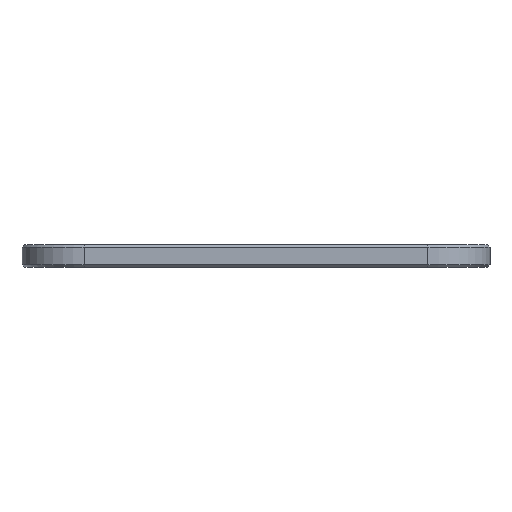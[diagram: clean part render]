
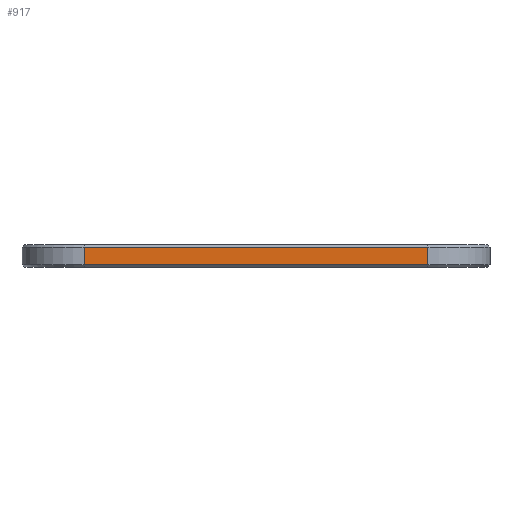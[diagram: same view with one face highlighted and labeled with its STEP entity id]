
A CAD part, front view. The second image highlights one B-rep face of the part: STEP entity #917.
In plain terms, the highlighted planar face has unit normal (0, -1, 0).
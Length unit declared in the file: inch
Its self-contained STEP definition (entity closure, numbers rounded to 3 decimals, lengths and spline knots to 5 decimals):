
#13 = EDGE_CURVE ( 'NONE', #1128, #965, #2582, .T. ) ;
#99 = DIRECTION ( 'NONE',  ( 0., 1., 0. ) ) ;
#306 = VECTOR ( 'NONE', #1344, 39.37008 ) ;
#321 = ORIENTED_EDGE ( 'NONE', *, *, #13, .T. ) ;
#349 = VERTEX_POINT ( 'NONE', #1753 ) ;
#354 = CARTESIAN_POINT ( 'NONE',  ( -1.175, -1.475, 0. ) ) ;
#481 = EDGE_CURVE ( 'NONE', #965, #349, #2691, .T. ) ;
#524 = LINE ( 'NONE', #354, #1788 ) ;
#676 = CARTESIAN_POINT ( 'NONE',  ( -1.175, -1.475, -0.02 ) ) ;
#690 = CARTESIAN_POINT ( 'NONE',  ( 1.175, -1.475, -0.137 ) ) ;
#722 = CARTESIAN_POINT ( 'NONE',  ( -1.175, -1.475, -0.137 ) ) ;
#733 = DIRECTION ( 'NONE',  ( -1., 0., 0. ) ) ;
#809 = PLANE ( 'NONE',  #1155 ) ;
#917 = ADVANCED_FACE ( 'NONE', ( #2729 ), #809, .F. ) ;
#965 = VERTEX_POINT ( 'NONE', #2778 ) ;
#996 = DIRECTION ( 'NONE',  ( 0., 0., -1. ) ) ;
#1061 = VECTOR ( 'NONE', #1240, 39.37008 ) ;
#1114 = VERTEX_POINT ( 'NONE', #676 ) ;
#1128 = VERTEX_POINT ( 'NONE', #722 ) ;
#1155 = AXIS2_PLACEMENT_3D ( 'NONE', #2016, #99, #2672 ) ;
#1216 = EDGE_CURVE ( 'NONE', #349, #1114, #2199, .T. ) ;
#1240 = DIRECTION ( 'NONE',  ( 0., 0., 1. ) ) ;
#1277 = EDGE_CURVE ( 'NONE', #1114, #1128, #524, .T. ) ;
#1332 = ORIENTED_EDGE ( 'NONE', *, *, #1216, .T. ) ;
#1339 = VECTOR ( 'NONE', #733, 39.37008 ) ;
#1344 = DIRECTION ( 'NONE',  ( 1., 0., 0. ) ) ;
#1475 = ORIENTED_EDGE ( 'NONE', *, *, #481, .T. ) ;
#1753 = CARTESIAN_POINT ( 'NONE',  ( 1.175, -1.475, -0.02 ) ) ;
#1788 = VECTOR ( 'NONE', #996, 39.37008 ) ;
#2016 = CARTESIAN_POINT ( 'NONE',  ( 1.6, -1.475, 0. ) ) ;
#2199 = LINE ( 'NONE', #2652, #1339 ) ;
#2356 = EDGE_LOOP ( 'NONE', ( #2685, #321, #1475, #1332 ) ) ;
#2582 = LINE ( 'NONE', #690, #306 ) ;
#2652 = CARTESIAN_POINT ( 'NONE',  ( 1.6, -1.475, -0.02 ) ) ;
#2672 = DIRECTION ( 'NONE',  ( 0., 0., 1. ) ) ;
#2685 = ORIENTED_EDGE ( 'NONE', *, *, #1277, .T. ) ;
#2691 = LINE ( 'NONE', #2733, #1061 ) ;
#2729 = FACE_OUTER_BOUND ( 'NONE', #2356, .T. ) ;
#2733 = CARTESIAN_POINT ( 'NONE',  ( 1.175, -1.475, 0. ) ) ;
#2778 = CARTESIAN_POINT ( 'NONE',  ( 1.175, -1.475, -0.137 ) ) ;
